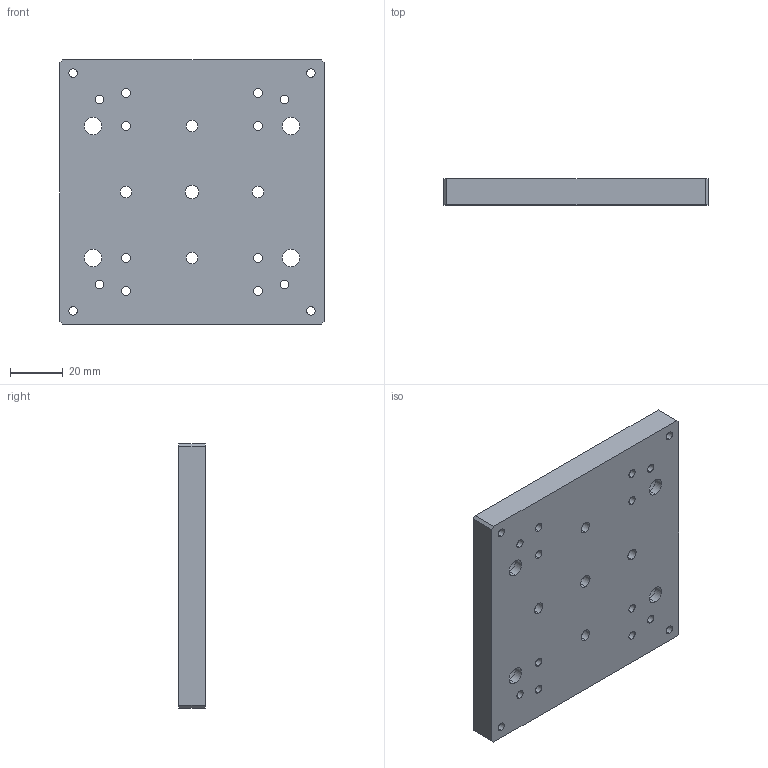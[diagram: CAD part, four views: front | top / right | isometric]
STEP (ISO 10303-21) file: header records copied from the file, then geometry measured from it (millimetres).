
FILE_DESCRIPTION (( 'STEP AP203' ), '1' );
FILE_NAME ('BP-A100.step', '2019-05-08T10:13:22', ( '' ), ( '' ), 'SwSTEP 2.0', 'SolidWorks 2017', '' );
FILE_SCHEMA (( 'CONFIG_CONTROL_DESIGN' ));
Length unit declared in the file: millimetre
Products named in the file (1): BP-A100
Bounding box: 100 x 10 x 100 mm (x, y, z)
Surface area: 27065.7 mm2 (no closed solid volume)
Topology: 0 solids, 2 shells, 113 faces, 536 edges, 428 vertices
Faces by surface type: cylinder 66, plane 47
Entity records: 5594 total; most frequent: CARTESIAN_POINT 1078, DIRECTION 896, ORIENTED_EDGE 800, EDGE_CURVE 536, VERTEX_POINT 428, VECTOR 404, LINE 404, AXIS2_PLACEMENT_3D 246
